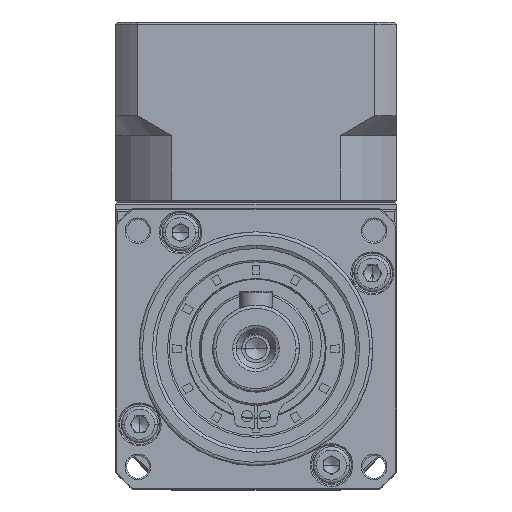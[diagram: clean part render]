
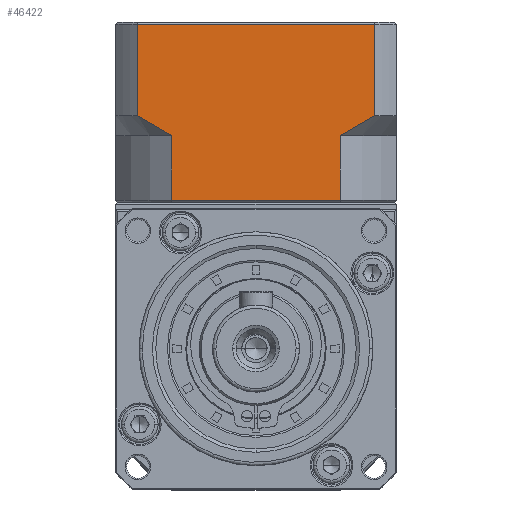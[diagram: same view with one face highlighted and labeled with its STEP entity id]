
A CAD part, top view. The second image highlights one B-rep face of the part: STEP entity #46422.
In plain terms, the highlighted planar face has unit normal (0, 0, 1).
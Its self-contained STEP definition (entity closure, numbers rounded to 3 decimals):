
#3128 = CARTESIAN_POINT ( 'NONE',  ( 52.104, 54.814, 50.83 ) ) ;
#5460 = CARTESIAN_POINT ( 'NONE',  ( 21.729, 41.814, 50.83 ) ) ;
#6445 = DIRECTION ( 'NONE',  ( -1., 0., 0. ) ) ;
#6859 = DIRECTION ( 'NONE',  ( 0., -1., 0. ) ) ;
#7264 = CARTESIAN_POINT ( 'NONE',  ( 46.968, 21.649, 50.83 ) ) ;
#7361 = PLANE ( 'NONE',  #65799 ) ;
#8089 = VECTOR ( 'NONE', #89736, 1000. ) ;
#10528 = ORIENTED_EDGE ( 'NONE', *, *, #72390, .T. ) ;
#10742 = CARTESIAN_POINT ( 'NONE',  ( 52.104, 68.514, 50.83 ) ) ;
#11290 = ORIENTED_EDGE ( 'NONE', *, *, #92153, .T. ) ;
#14044 = CARTESIAN_POINT ( 'NONE',  ( 16.594, 68.514, 50.83 ) ) ;
#16583 = ORIENTED_EDGE ( 'NONE', *, *, #81663, .F. ) ;
#17786 = LINE ( 'NONE', #5460, #42769 ) ;
#24285 = CARTESIAN_POINT ( 'NONE',  ( 55.349, 68.514, 50.83 ) ) ;
#26808 = CARTESIAN_POINT ( 'NONE',  ( 18.261, 53.737, 50.83 ) ) ;
#27698 = DIRECTION ( 'NONE',  ( 0., 1., 0. ) ) ;
#29458 = CARTESIAN_POINT ( 'NONE',  ( 16.594, 41.814, 50.83 ) ) ;
#33049 = CARTESIAN_POINT ( 'NONE',  ( 48.733, 52.723, 50.83 ) ) ;
#35053 = VERTEX_POINT ( 'NONE', #10742 ) ;
#36652 = EDGE_CURVE ( 'NONE', #45346, #126313, #65746, .T. ) ;
#38296 = CARTESIAN_POINT ( 'NONE',  ( 52.104, 54.814, 50.83 ) ) ;
#42769 = VECTOR ( 'NONE', #85222, 1000. ) ;
#43188 = EDGE_CURVE ( 'NONE', #105007, #112305, #88848, .T. ) ;
#45346 = VERTEX_POINT ( 'NONE', #68312 ) ;
#46422 = ADVANCED_FACE ( 'NONE', ( #104511 ), #7361, .T. ) ;
#46964 = VERTEX_POINT ( 'NONE', #38296 ) ;
#49623 = LINE ( 'NONE', #24285, #116275 ) ;
#53831 = CARTESIAN_POINT ( 'NONE',  ( 50.437, 53.737, 50.83 ) ) ;
#54325 = CARTESIAN_POINT ( 'NONE',  ( 21.729, 42.114, 50.83 ) ) ;
#59869 = ORIENTED_EDGE ( 'NONE', *, *, #43188, .T. ) ;
#60768 = CARTESIAN_POINT ( 'NONE',  ( 21.729, 51.814, 50.83 ) ) ;
#64205 = CARTESIAN_POINT ( 'NONE',  ( 55.349, 42.114, 50.83 ) ) ;
#64910 = CARTESIAN_POINT ( 'NONE',  ( 16.594, 54.814, 50.83 ) ) ;
#65124 = VERTEX_POINT ( 'NONE', #60768 ) ;
#65746 = LINE ( 'NONE', #7264, #99967 ) ;
#65799 = AXIS2_PLACEMENT_3D ( 'NONE', #127013, #87149, #86709 ) ;
#66218 = CARTESIAN_POINT ( 'NONE',  ( 16.594, 54.814, 50.83 ) ) ;
#68312 = CARTESIAN_POINT ( 'NONE',  ( 46.968, 51.814, 50.83 ) ) ;
#72390 = EDGE_CURVE ( 'NONE', #65124, #105906, #17786, .T. ) ;
#72915 = VECTOR ( 'NONE', #27698, 1000. ) ;
#74639 = DIRECTION ( 'NONE',  ( -1., 0., 0. ) ) ;
#77627 = EDGE_CURVE ( 'NONE', #46964, #35053, #93102, .T. ) ;
#81663 = EDGE_CURVE ( 'NONE', #126313, #105906, #94691, .T. ) ;
#83483 = ORIENTED_EDGE ( 'NONE', *, *, #85866, .T. ) ;
#84524 = CARTESIAN_POINT ( 'NONE',  ( 21.729, 51.814, 50.83 ) ) ;
#85222 = DIRECTION ( 'NONE',  ( 0., -1., 0. ) ) ;
#85866 = EDGE_CURVE ( 'NONE', #112305, #65124, #91465, .T. ) ;
#86709 = DIRECTION ( 'NONE',  ( -1., 0., 0. ) ) ;
#87149 = DIRECTION ( 'NONE',  ( 0., 0., 1. ) ) ;
#88848 = LINE ( 'NONE', #29458, #8089 ) ;
#89736 = DIRECTION ( 'NONE',  ( 0., -1., 0. ) ) ;
#89925 = VECTOR ( 'NONE', #74639, 1000. ) ;
#91465 = B_SPLINE_CURVE_WITH_KNOTS ( 'NONE', 3,
 ( #66218, #26808, #106146, #84524 ),
 .UNSPECIFIED., .F., .F.,
 ( 4, 4 ),
 ( 0., 0.006 ),
 .UNSPECIFIED. ) ;
#92153 = EDGE_CURVE ( 'NONE', #35053, #105007, #49623, .T. ) ;
#92783 = ORIENTED_EDGE ( 'NONE', *, *, #36652, .F. ) ;
#93102 = LINE ( 'NONE', #115375, #72915 ) ;
#94691 = LINE ( 'NONE', #64205, #89925 ) ;
#98779 = ORIENTED_EDGE ( 'NONE', *, *, #116104, .T. ) ;
#99967 = VECTOR ( 'NONE', #6859, 1000. ) ;
#102058 = CARTESIAN_POINT ( 'NONE',  ( 46.968, 51.814, 50.83 ) ) ;
#104511 = FACE_OUTER_BOUND ( 'NONE', #121855, .T. ) ;
#105007 = VERTEX_POINT ( 'NONE', #14044 ) ;
#105906 = VERTEX_POINT ( 'NONE', #54325 ) ;
#106146 = CARTESIAN_POINT ( 'NONE',  ( 19.964, 52.723, 50.83 ) ) ;
#109956 = ORIENTED_EDGE ( 'NONE', *, *, #77627, .T. ) ;
#112305 = VERTEX_POINT ( 'NONE', #64910 ) ;
#115375 = CARTESIAN_POINT ( 'NONE',  ( 52.104, 41.814, 50.83 ) ) ;
#116104 = EDGE_CURVE ( 'NONE', #45346, #46964, #116365, .T. ) ;
#116275 = VECTOR ( 'NONE', #6445, 1000. ) ;
#116365 = B_SPLINE_CURVE_WITH_KNOTS ( 'NONE', 3,
 ( #102058, #33049, #53831, #3128 ),
 .UNSPECIFIED., .F., .F.,
 ( 4, 4 ),
 ( 0., 0.006 ),
 .UNSPECIFIED. ) ;
#119010 = CARTESIAN_POINT ( 'NONE',  ( 46.968, 42.114, 50.83 ) ) ;
#121855 = EDGE_LOOP ( 'NONE', ( #59869, #83483, #10528, #16583, #92783, #98779, #109956, #11290 ) ) ;
#126313 = VERTEX_POINT ( 'NONE', #119010 ) ;
#127013 = CARTESIAN_POINT ( 'NONE',  ( 55.349, 41.814, 50.83 ) ) ;
